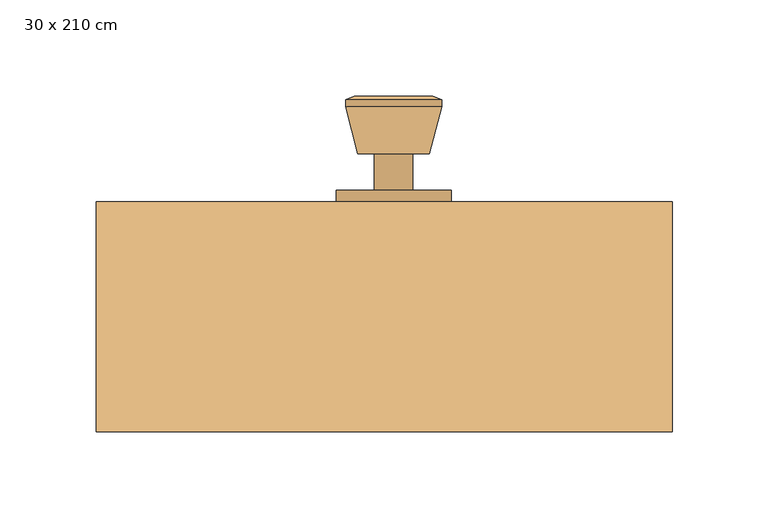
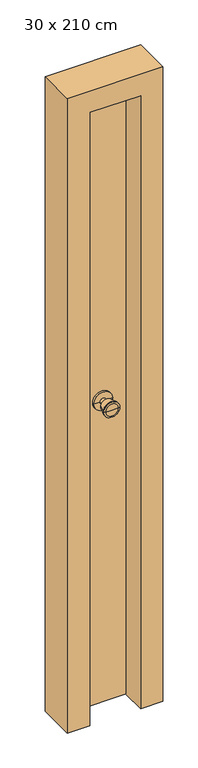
"""IFC4 building model written with IfcOpenShell, lengths in millimetres: door geometry, 單開-矩形- (1) : 30 x 210 cm."""

from ifc_helpers import new_model, si_unit, frame, origin, origin_with_axes, place, context, project, spatial, polyline, circle_curve, outline, extrude, faceted_brep, source, transform, mapped, element, save
from ifc_brep_helpers import plane_surface, cylinder_surface, revolved_surface, advanced_brep


def door_30_x_210_cm_06718960(model_context):
    return source(origin(), model_context, "Body", "SolidModel", [
        advanced_brep(
        [(35.0, -144.0, 1000.0), (35.0, -150.0, 1000.0), (-25.0, -150.0, 1000.0), (-25.0, -144.0, 1000.0), (15.0, -144.0, 1000.0), (-5.0, -144.0, 1000.0), (15.0, -125.0, 1000.0), (-5.0, -125.0, 1000.0), (23.6, -125.0, 1000.0), (-13.6, -125.0, 1000.0), (30.0, -100.3, 1000.0), (-20.0, -100.3, 1000.0), (30.0, -96.8, 1000.0), (-20.0, -96.8, 1000.0), (25.5, -95.0, 1000.0), (-15.5, -95.0, 1000.0), (5.0, -95.0, 1000.0), (5.0, -150.0, 1000.0)],
        [
            (0, 1),
            (1, 2, circle_curve(frame((5.0, -150.0, 1000.0), z_axis=(0.0, 1.0, 0.0), x_axis=(-1.0, 0.0, 0.0)), 30.0)),
            (2, 3),
            (3, 0, circle_curve(frame((5.0, -144.0, 1000.0), z_axis=(0.0, -1.0, 0.0), x_axis=(-1.0, 0.0, 0.0)), 30.0)),
            (2, 1, circle_curve(frame((5.0, -150.0, 1000.0), z_axis=(0.0, 1.0, 0.0), x_axis=(-1.0, 0.0, 0.0)), 30.0)),
            (0, 3, circle_curve(frame((5.0, -144.0, 1000.0), z_axis=(0.0, -1.0, 0.0), x_axis=(-1.0, 0.0, 0.0)), 30.0)),
            (4, 0),
            (3, 5),
            (5, 4, circle_curve(frame((5.0, -144.0, 1000.0), z_axis=(0.0, -1.0, 0.0), x_axis=(-1.0, 0.0, 0.0)), 10.0)),
            (4, 5, circle_curve(frame((5.0, -144.0, 1000.0), z_axis=(0.0, -1.0, 0.0), x_axis=(-1.0, 0.0, 0.0)), 10.0)),
            (6, 4),
            (5, 7),
            (7, 6, circle_curve(frame((5.0, -125.0, 1000.0), z_axis=(0.0, -1.0, 0.0), x_axis=(-1.0, 0.0, 0.0)), 10.0)),
            (6, 7, circle_curve(frame((5.0, -125.0, 1000.0), z_axis=(0.0, -1.0, 0.0), x_axis=(-1.0, 0.0, 0.0)), 10.0)),
            (8, 6),
            (7, 9),
            (9, 8, circle_curve(frame((5.0, -125.0, 1000.0), z_axis=(0.0, -1.0, 0.0), x_axis=(-1.0, 0.0, 0.0)), 18.6)),
            (8, 9, circle_curve(frame((5.0, -125.0, 1000.0), z_axis=(0.0, -1.0, 0.0), x_axis=(-1.0, 0.0, 0.0)), 18.6)),
            (10, 8),
            (9, 11),
            (11, 10, circle_curve(frame((5.0, -100.3, 1000.0), z_axis=(0.0, -1.0, 0.0), x_axis=(-1.0, 0.0, 0.0)), 25.0)),
            (10, 11, circle_curve(frame((5.0, -100.3, 1000.0), z_axis=(0.0, -1.0, 0.0), x_axis=(-1.0, 0.0, 0.0)), 25.0)),
            (12, 10),
            (11, 13),
            (13, 12, circle_curve(frame((5.0, -96.8, 1000.0), z_axis=(0.0, -1.0, 0.0), x_axis=(-1.0, 0.0, 0.0)), 25.0)),
            (12, 13, circle_curve(frame((5.0, -96.8, 1000.0), z_axis=(0.0, -1.0, 0.0), x_axis=(-1.0, 0.0, 0.0)), 25.0)),
            (14, 12),
            (13, 15),
            (15, 14, circle_curve(frame((5.0, -95.0, 1000.0), z_axis=(0.0, -1.0, 0.0), x_axis=(-1.0, 0.0, 0.0)), 20.5)),
            (14, 15, circle_curve(frame((5.0, -95.0, 1000.0), z_axis=(0.0, -1.0, 0.0), x_axis=(-1.0, 0.0, 0.0)), 20.5)),
            (16, 14),
            (15, 16),
            (1, 17),
            (17, 2),
        ],
        [
            cylinder_surface(frame((5.0, -210.0, 1000.0), z_axis=(0.0, 1.0, 0.0), x_axis=(-1.0, 0.0, 0.0)), 30.0),
            plane_surface(frame((5.0, -144.0, 1000.0), z_axis=(0.0, 1.0, 0.0), x_axis=(-1.0, 0.0, 0.0))),
            cylinder_surface(frame((5.0, -210.0, 1000.0), z_axis=(0.0, 1.0, 0.0), x_axis=(-1.0, 0.0, 0.0)), 10.0),
            plane_surface(frame((5.0, -125.0, 1000.0), z_axis=(0.0, -1.0, 0.0), x_axis=(-1.0, 0.0, 0.0))),
            revolved_surface(polyline([(-13.6, -125.0, 1000.0), (-20.0, -100.3, 1000.0)]), (5.0, -210.0, 1000.0), (0.0, 1.0, 0.0)),
            cylinder_surface(frame((5.0, -210.0, 1000.0), z_axis=(0.0, 1.0, 0.0), x_axis=(-1.0, 0.0, 0.0)), 25.0),
            revolved_surface(polyline([(-20.0, -96.8, 1000.0), (-15.5, -95.0, 1000.0)]), (5.0, -210.0, 1000.0), (0.0, 1.0, 0.0)),
            plane_surface(frame((5.0, -95.0, 1000.0), z_axis=(0.0, 1.0, 0.0), x_axis=(-1.0, 0.0, 0.0))),
            plane_surface(frame((5.0, -150.0, 1000.0), z_axis=(0.0, -1.0, 0.0), x_axis=(-1.0, 0.0, 0.0))),
        ],
        [
            (0, [[1, 2, 3, 4]]),
            (0, [[-3, 5, -1, 6]]),
            (1, [[7, -4, 8, 9]]),
            (1, [[-8, -6, -7, 10]]),
            (2, [[11, -9, 12, 13]]),
            (2, [[-12, -10, -11, 14]]),
            (3, [[15, -13, 16, 17]]),
            (3, [[-16, -14, -15, 18]]),
            (4, [[19, -17, 20, 21]]),
            (4, [[-20, -18, -19, 22]]),
            (5, [[23, -21, 24, 25]]),
            (5, [[-24, -22, -23, 26]]),
            (6, [[27, -25, 28, 29]]),
            (6, [[-28, -26, -27, 30]]),
            (7, [[31, -29, 32]]),
            (7, [[-32, -30, -31]]),
            (8, [[33, 34, -2]]),
            (8, [[-34, -33, -5]]),
        ],
    ),
        advanced_brep(
        [(35.0, -196.0, 1000.0), (-25.0, -196.0, 1000.0), (-25.0, -190.0, 1000.0), (35.0, -190.0, 1000.0), (15.0, -196.0, 1000.0), (-5.0, -196.0, 1000.0), (15.0, -215.0, 1000.0), (-5.0, -215.0, 1000.0), (23.6, -215.0, 1000.0), (-13.6, -215.0, 1000.0), (30.0, -239.7, 1000.0), (-20.0, -239.7, 1000.0), (30.0, -243.2, 1000.0), (-20.0, -243.2, 1000.0), (25.5, -245.0, 1000.0), (-15.5, -245.0, 1000.0), (5.0, -245.0, 1000.0), (5.0, -190.0, 1000.0)],
        [
            (0, 1, circle_curve(frame((5.0, -196.0, 1000.0), z_axis=(0.0, 1.0, 0.0), x_axis=(-1.0, 0.0, 0.0)), 30.0)),
            (1, 2),
            (2, 3, circle_curve(frame((5.0, -190.0, 1000.0), z_axis=(0.0, -1.0, 0.0), x_axis=(-1.0, 0.0, 0.0)), 30.0)),
            (3, 0),
            (1, 0, circle_curve(frame((5.0, -196.0, 1000.0), z_axis=(0.0, 1.0, 0.0), x_axis=(-1.0, 0.0, 0.0)), 30.0)),
            (3, 2, circle_curve(frame((5.0, -190.0, 1000.0), z_axis=(0.0, -1.0, 0.0), x_axis=(-1.0, 0.0, 0.0)), 30.0)),
            (4, 5, circle_curve(frame((5.0, -196.0, 1000.0), z_axis=(0.0, 1.0, 0.0), x_axis=(-1.0, 0.0, 0.0)), 10.0)),
            (5, 1),
            (0, 4),
            (5, 4, circle_curve(frame((5.0, -196.0, 1000.0), z_axis=(0.0, 1.0, 0.0), x_axis=(-1.0, 0.0, 0.0)), 10.0)),
            (6, 7, circle_curve(frame((5.0, -215.0, 1000.0), z_axis=(0.0, 1.0, 0.0), x_axis=(-1.0, 0.0, 0.0)), 10.0)),
            (7, 5),
            (4, 6),
            (7, 6, circle_curve(frame((5.0, -215.0, 1000.0), z_axis=(0.0, 1.0, 0.0), x_axis=(-1.0, 0.0, 0.0)), 10.0)),
            (8, 9, circle_curve(frame((5.0, -215.0, 1000.0), z_axis=(0.0, 1.0, 0.0), x_axis=(-1.0, 0.0, 0.0)), 18.6)),
            (9, 7),
            (6, 8),
            (9, 8, circle_curve(frame((5.0, -215.0, 1000.0), z_axis=(0.0, 1.0, 0.0), x_axis=(-1.0, 0.0, 0.0)), 18.6)),
            (10, 11, circle_curve(frame((5.0, -239.7, 1000.0), z_axis=(0.0, 1.0, 0.0), x_axis=(-1.0, 0.0, 0.0)), 25.0)),
            (11, 9),
            (8, 10),
            (11, 10, circle_curve(frame((5.0, -239.7, 1000.0), z_axis=(0.0, 1.0, 0.0), x_axis=(-1.0, 0.0, 0.0)), 25.0)),
            (12, 13, circle_curve(frame((5.0, -243.2, 1000.0), z_axis=(0.0, 1.0, 0.0), x_axis=(-1.0, 0.0, 0.0)), 25.0)),
            (13, 11),
            (10, 12),
            (13, 12, circle_curve(frame((5.0, -243.2, 1000.0), z_axis=(0.0, 1.0, 0.0), x_axis=(-1.0, 0.0, 0.0)), 25.0)),
            (14, 15, circle_curve(frame((5.0, -245.0, 1000.0), z_axis=(0.0, 1.0, 0.0), x_axis=(-1.0, 0.0, 0.0)), 20.5)),
            (15, 13),
            (12, 14),
            (15, 14, circle_curve(frame((5.0, -245.0, 1000.0), z_axis=(0.0, 1.0, 0.0), x_axis=(-1.0, 0.0, 0.0)), 20.5)),
            (16, 15),
            (14, 16),
            (2, 17),
            (17, 3),
        ],
        [
            cylinder_surface(frame((5.0, -130.0, 1000.0), z_axis=(0.0, -1.0, 0.0), x_axis=(-1.0, 0.0, 0.0)), 30.0),
            plane_surface(frame((5.0, -196.0, 1000.0), z_axis=(0.0, -1.0, 0.0), x_axis=(-1.0, 0.0, 0.0))),
            cylinder_surface(frame((5.0, -130.0, 1000.0), z_axis=(0.0, -1.0, 0.0), x_axis=(-1.0, 0.0, 0.0)), 10.0),
            plane_surface(frame((5.0, -215.0, 1000.0), z_axis=(0.0, 1.0, 0.0), x_axis=(-1.0, 0.0, 0.0))),
            revolved_surface(polyline([(-13.6, -215.0, 1000.0), (-20.0, -239.7, 1000.0)]), (5.0, -130.0, 1000.0), (0.0, -1.0, 0.0)),
            cylinder_surface(frame((5.0, -130.0, 1000.0), z_axis=(0.0, -1.0, 0.0), x_axis=(-1.0, 0.0, 0.0)), 25.0),
            revolved_surface(polyline([(-20.0, -243.2, 1000.0), (-15.5, -245.0, 1000.0)]), (5.0, -130.0, 1000.0), (0.0, -1.0, 0.0)),
            plane_surface(frame((5.0, -245.0, 1000.0), z_axis=(0.0, -1.0, 0.0), x_axis=(-1.0, 0.0, 0.0))),
            plane_surface(frame((5.0, -190.0, 1000.0), z_axis=(0.0, 1.0, 0.0), x_axis=(-1.0, 0.0, 0.0))),
        ],
        [
            (0, [[1, 2, 3, 4]]),
            (0, [[5, -4, 6, -2]]),
            (1, [[7, 8, -1, 9]]),
            (1, [[10, -9, -5, -8]]),
            (2, [[11, 12, -7, 13]]),
            (2, [[14, -13, -10, -12]]),
            (3, [[15, 16, -11, 17]]),
            (3, [[18, -17, -14, -16]]),
            (4, [[19, 20, -15, 21]]),
            (4, [[22, -21, -18, -20]]),
            (5, [[23, 24, -19, 25]]),
            (5, [[26, -25, -22, -24]]),
            (6, [[27, 28, -23, 29]]),
            (6, [[30, -29, -26, -28]]),
            (7, [[31, -27, 32]]),
            (7, [[-32, -30, -31]]),
            (8, [[-3, 33, 34]]),
            (8, [[-6, -34, -33]]),
        ],
    ),
        extrude(outline(polyline([(100.0, -190.0), (-100.0, -190.0), (-100.0, -150.0), (100.0, -150.0), (100.0, -190.0)])), origin_with_axes(), (0.0, 0.0, 1.0), 2050.0),
        faceted_brep([(100.0, -150.0, 0.0), (150.0, -150.0, 0.0), (150.0, -270.0, 0.0), (80.0, -270.0, 0.0), (80.0, -190.0, 0.0), (100.0, -190.0, 0.0), (100.0, -150.0, 2050.0), (-100.0, -150.0, 2050.0), (-100.0, -150.0, 0.0), (-150.0, -150.0, 0.0), (-150.0, -150.0, 2100.0), (150.0, -150.0, 2100.0), (150.0, -270.0, 2100.0), (-150.0, -270.0, 2100.0), (-150.0, -270.0, 0.0), (-80.0, -270.0, 0.0), (-80.0, -270.0, 2030.0), (80.0, -270.0, 2030.0), (80.0, -190.0, 2030.0), (-80.0, -190.0, 2030.0), (-80.0, -190.0, 0.0), (-100.0, -190.0, 0.0), (-100.0, -190.0, 2050.0), (100.0, -190.0, 2050.0)], [[[0, 1, 2, 3, 4, 5]], [[1, 0, 6, 7, 8, 9, 10, 11]], [[2, 1, 11, 12]], [[3, 2, 12, 13, 14, 15, 16, 17]], [[4, 3, 17, 18]], [[5, 4, 18, 19, 20, 21, 22, 23]], [[0, 5, 23, 6]], [[12, 11, 10, 13]], [[18, 17, 16, 19]], [[6, 23, 22, 7]], [[8, 21, 20, 15, 14, 9]], [[13, 10, 9, 14]], [[19, 16, 15, 20]], [[7, 22, 21, 8]]]),
    ])


if __name__ == "__main__":
    model = new_model("IFC4")
    model_context = context("Model", 3, world=origin())
    ifc_project = project(units=[si_unit("LENGTHUNIT", "METRE", prefix="MILLI")], contexts=[model_context])
    site = spatial("IfcSite", under=ifc_project)
    building = spatial("IfcBuilding", under=site)
    placement = place(None, origin())
    door_30_x_210_cm_shape = door_30_x_210_cm_06718960(model_context)
    element("IfcDoor", 1, ObjectType="單開-矩形- (1) : 30 x 210 cm", at=placement, inside=building, context=model_context, shape_type="MappedRepresentation", body=[
        mapped(door_30_x_210_cm_shape, transform((0.0, 0.0, 0.0), x_axis=(1.0, 0.0, 0.0), y_axis=(0.0, 1.0, 0.0), z_axis=(0.0, 0.0, 1.0))),
    ])
    save(model, "model.ifc")
